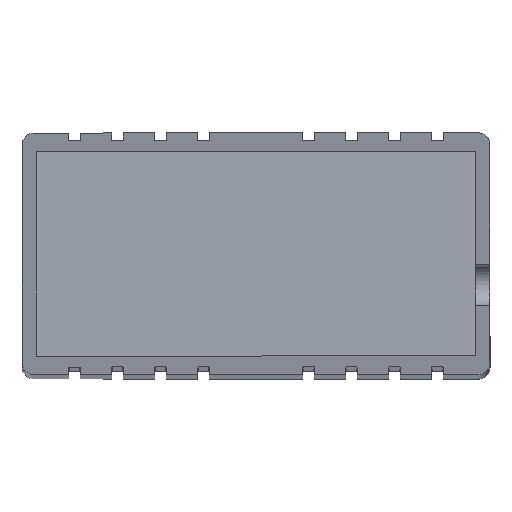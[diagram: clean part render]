
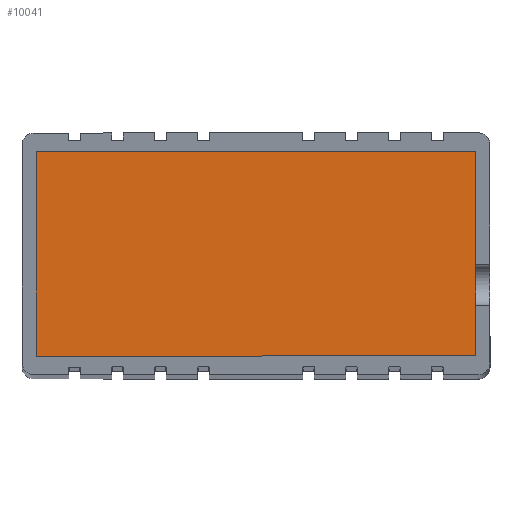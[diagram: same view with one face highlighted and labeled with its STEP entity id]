
A CAD part, top view. The second image highlights one B-rep face of the part: STEP entity #10041.
In plain terms, the highlighted planar face has unit normal (0, 0, 1) by its records, which use the part's own axes.
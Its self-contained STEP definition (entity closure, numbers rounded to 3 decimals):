
#270=LINE($,#14185,#1205);
#271=LINE($,#14187,#1206);
#272=LINE($,#14189,#1207);
#273=LINE($,#14190,#1208);
#1205=VECTOR($,#11481,56.3);
#1206=VECTOR($,#11482,26.2);
#1207=VECTOR($,#11483,56.3);
#1208=VECTOR($,#11484,26.2);
#2139=PLANE($,#10575);
#2623=FACE_OUTER_BOUND($,#3122,.T.);
#3122=EDGE_LOOP($,(#6483,#6484,#6485,#6486));
#4114=VERTEX_POINT($,#14183);
#4115=VERTEX_POINT($,#14184);
#4116=VERTEX_POINT($,#14186);
#4117=VERTEX_POINT($,#14188);
#5054=EDGE_CURVE($,#4114,#4115,#270,.T.);
#5055=EDGE_CURVE($,#4116,#4114,#271,.T.);
#5056=EDGE_CURVE($,#4117,#4116,#272,.T.);
#5057=EDGE_CURVE($,#4115,#4117,#273,.T.);
#6483=ORIENTED_EDGE($,*,*,#5054,.F.);
#6484=ORIENTED_EDGE($,*,*,#5055,.F.);
#6485=ORIENTED_EDGE($,*,*,#5056,.F.);
#6486=ORIENTED_EDGE($,*,*,#5057,.F.);
#10041=ADVANCED_FACE($,(#2623),#2139,.F.);
#10575=AXIS2_PLACEMENT_3D($,#14182,#11479,#11480);
#11479=DIRECTION('center_axis',(0.,0.,
-1.));
#11480=DIRECTION('ref_axis',(-1.,0.,0.));
#11481=DIRECTION($,(-1.,0.,0.));
#11482=DIRECTION($,(0.,-1.,0.));
#11483=DIRECTION($,(1.,0.,0.));
#11484=DIRECTION($,(0.,1.,0.));
#14182=CARTESIAN_POINT('Origin',(-20.952,74.37,160.852));
#14183=CARTESIAN_POINT('',(7.198,61.27,160.852));
#14184=CARTESIAN_POINT('',(-49.102,61.27,160.852));
#14185=CARTESIAN_POINT($,(-35.027,61.27,160.852));
#14186=CARTESIAN_POINT('',(7.198,87.47,160.852));
#14187=CARTESIAN_POINT($,(7.198,67.82,160.852));
#14188=CARTESIAN_POINT('',(-49.102,87.47,160.852));
#14189=CARTESIAN_POINT($,(-6.877,87.47,160.852));
#14190=CARTESIAN_POINT($,(-49.102,80.92,160.852));
